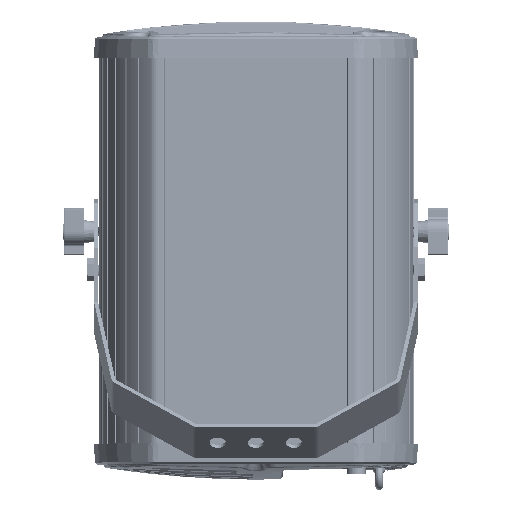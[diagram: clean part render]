
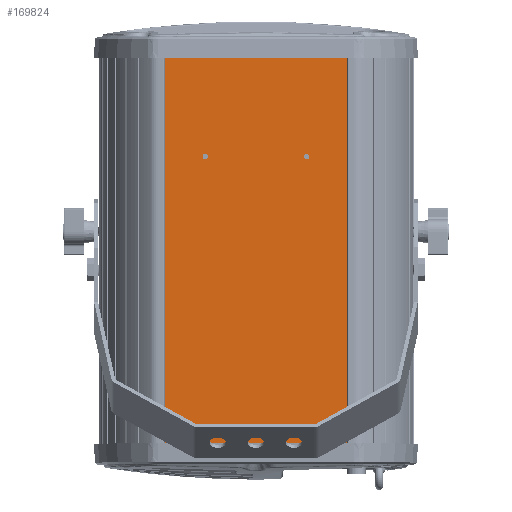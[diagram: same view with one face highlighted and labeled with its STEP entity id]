
A CAD part, top view. The second image highlights one B-rep face of the part: STEP entity #169824.
In plain terms, the highlighted planar face has unit normal (0, 0, 1).
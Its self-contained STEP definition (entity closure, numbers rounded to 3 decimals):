
#168538=DIRECTION('',(-1.,0.,0.));
#168539=VECTOR('',#168538,37.);
#168540=CARTESIAN_POINT('',(23.01,256.5,119.875));
#168541=LINE('',#168540,#168539);
#168555=DIRECTION('',(0.,-1.,0.));
#168556=VECTOR('',#168555,1.5);
#168557=CARTESIAN_POINT('',(23.01,258.,119.875));
#168558=LINE('',#168557,#168556);
#168563=DIRECTION('',(-1.,0.,0.));
#168564=VECTOR('',#168563,100.);
#168565=CARTESIAN_POINT('',(123.01,258.,119.875));
#168566=LINE('',#168565,#168564);
#168571=DIRECTION('',(0.,1.,0.));
#168572=VECTOR('',#168571,330.);
#168573=CARTESIAN_POINT('',(123.01,-72.,119.875));
#168574=LINE('',#168573,#168572);
#168579=DIRECTION('',(1.,0.,0.));
#168580=VECTOR('',#168579,20.);
#168581=CARTESIAN_POINT('',(103.01,-72.,119.875));
#168582=LINE('',#168581,#168580);
#168693=DIRECTION('',(1.,0.,0.));
#168694=VECTOR('',#168693,11.5);
#168695=CARTESIAN_POINT('',(43.01,-72.,119.875));
#168696=LINE('',#168695,#168694);
#168795=DIRECTION('',(0.,1.,0.));
#168796=VECTOR('',#168795,1.5);
#168797=CARTESIAN_POINT('',(-3.99,-72.,119.875));
#168798=LINE('',#168797,#168796);
#168811=DIRECTION('',(1.,0.,0.));
#168812=VECTOR('',#168811,20.);
#168813=CARTESIAN_POINT('',(-23.99,-72.,119.875));
#168814=LINE('',#168813,#168812);
#168819=DIRECTION('',(-1.,0.,0.));
#168820=VECTOR('',#168819,10.);
#168821=CARTESIAN_POINT('',(-13.99,258.,119.875));
#168822=LINE('',#168821,#168820);
#168848=DIRECTION('',(0.,-1.,0.));
#168849=VECTOR('',#168848,1.5);
#168850=CARTESIAN_POINT('',(54.51,-70.5,119.875));
#168851=LINE('',#168850,#168849);
#168852=DIRECTION('',(0.,1.,0.));
#168853=VECTOR('',#168852,1.5);
#168854=CARTESIAN_POINT('',(43.01,-72.,119.875));
#168855=LINE('',#168854,#168853);
#168856=DIRECTION('',(0.,1.,0.));
#168857=VECTOR('',#168856,330.);
#168858=CARTESIAN_POINT('',(-23.99,-72.,119.875));
#168859=LINE('',#168858,#168857);
#168860=DIRECTION('',(0.,-1.,0.));
#168861=VECTOR('',#168860,1.5);
#168862=CARTESIAN_POINT('',(-13.99,258.,119.875));
#168863=LINE('',#168862,#168861);
#168864=DIRECTION('',(0.,1.,0.));
#168865=VECTOR('',#168864,1.5);
#168866=CARTESIAN_POINT('',(103.01,-72.,119.875));
#168867=LINE('',#168866,#168865);
#168868=CARTESIAN_POINT('',(89.51,167.,119.875));
#168869=DIRECTION('',(0.,0.,1.));
#168870=DIRECTION('',(-1.,0.,0.));
#168871=AXIS2_PLACEMENT_3D('',#168868,#168869,#168870);
#168873=CARTESIAN_POINT('',(89.51,167.,119.875));
#168874=DIRECTION('',(0.,0.,1.));
#168875=DIRECTION('',(1.,0.,0.));
#168876=AXIS2_PLACEMENT_3D('',#168873,#168874,#168875);
#168878=CARTESIAN_POINT('',(9.51,167.,119.875));
#168879=DIRECTION('',(0.,0.,1.));
#168880=DIRECTION('',(-1.,0.,0.));
#168881=AXIS2_PLACEMENT_3D('',#168878,#168879,#168880);
#168883=CARTESIAN_POINT('',(9.51,167.,119.875));
#168884=DIRECTION('',(0.,0.,1.));
#168885=DIRECTION('',(1.,0.,0.));
#168886=AXIS2_PLACEMENT_3D('',#168883,#168884,#168885);
#168892=DIRECTION('',(1.,0.,0.));
#168893=VECTOR('',#168892,48.5);
#168894=CARTESIAN_POINT('',(54.51,-70.5,119.875));
#168895=LINE('',#168894,#168893);
#168900=DIRECTION('',(1.,0.,0.));
#168901=VECTOR('',#168900,47.);
#168902=CARTESIAN_POINT('',(-3.99,-70.5,119.875));
#168903=LINE('',#168902,#168901);
#168940=CARTESIAN_POINT('',(11.61,167.,119.875));
#168941=VERTEX_POINT('',#168940);
#168942=CARTESIAN_POINT('',(7.41,167.,119.875));
#168943=VERTEX_POINT('',#168942);
#169008=CARTESIAN_POINT('',(23.01,256.5,119.875));
#169009=VERTEX_POINT('',#169008);
#169010=CARTESIAN_POINT('',(-13.99,256.5,119.875));
#169011=VERTEX_POINT('',#169010);
#169012=CARTESIAN_POINT('',(23.01,258.,119.875));
#169013=VERTEX_POINT('',#169012);
#169014=CARTESIAN_POINT('',(123.01,258.,119.875));
#169015=VERTEX_POINT('',#169014);
#169016=CARTESIAN_POINT('',(123.01,-72.,119.875));
#169017=VERTEX_POINT('',#169016);
#169018=CARTESIAN_POINT('',(103.01,-72.,119.875));
#169019=VERTEX_POINT('',#169018);
#169020=CARTESIAN_POINT('',(103.01,-70.5,119.875));
#169021=VERTEX_POINT('',#169020);
#169050=CARTESIAN_POINT('',(54.51,-70.5,119.875));
#169051=VERTEX_POINT('',#169050);
#169052=CARTESIAN_POINT('',(54.51,-72.,119.875));
#169053=VERTEX_POINT('',#169052);
#169054=CARTESIAN_POINT('',(43.01,-72.,119.875));
#169055=VERTEX_POINT('',#169054);
#169056=CARTESIAN_POINT('',(43.01,-70.5,119.875));
#169057=VERTEX_POINT('',#169056);
#169086=CARTESIAN_POINT('',(-3.99,-70.5,119.875));
#169087=VERTEX_POINT('',#169086);
#169088=CARTESIAN_POINT('',(-3.99,-72.,119.875));
#169089=VERTEX_POINT('',#169088);
#169090=CARTESIAN_POINT('',(-23.99,-72.,119.875));
#169091=VERTEX_POINT('',#169090);
#169092=CARTESIAN_POINT('',(-23.99,258.,119.875));
#169093=VERTEX_POINT('',#169092);
#169094=CARTESIAN_POINT('',(-13.99,258.,119.875));
#169095=VERTEX_POINT('',#169094);
#169096=CARTESIAN_POINT('',(87.41,167.,119.875));
#169097=CARTESIAN_POINT('',(91.61,167.,119.875));
#169098=VERTEX_POINT('',#169096);
#169099=VERTEX_POINT('',#169097);
#169788=CARTESIAN_POINT('',(49.51,93.,119.875));
#169789=DIRECTION('',(0.,0.,1.));
#169790=DIRECTION('',(0.,1.,0.));
#169791=AXIS2_PLACEMENT_3D('',#169788,#169789,#169790);
#169792=PLANE('',#169791);
#169794=ORIENTED_EDGE('',*,*,#169793,.F.);
#169795=ORIENTED_EDGE('',*,*,#169492,.T.);
#169796=ORIENTED_EDGE('',*,*,#169507,.F.);
#169797=ORIENTED_EDGE('',*,*,#169520,.T.);
#169799=ORIENTED_EDGE('',*,*,#169798,.F.);
#169800=ORIENTED_EDGE('',*,*,#169676,.F.);
#169801=ORIENTED_EDGE('',*,*,#169691,.F.);
#169802=ORIENTED_EDGE('',*,*,#169704,.T.);
#169803=ORIENTED_EDGE('',*,*,#169717,.F.);
#169804=ORIENTED_EDGE('',*,*,#169732,.T.);
#169805=ORIENTED_EDGE('',*,*,#169253,.F.);
#169806=ORIENTED_EDGE('',*,*,#169280,.F.);
#169807=ORIENTED_EDGE('',*,*,#169295,.F.);
#169808=ORIENTED_EDGE('',*,*,#169308,.F.);
#169809=ORIENTED_EDGE('',*,*,#169321,.F.);
#169810=ORIENTED_EDGE('',*,*,#169336,.T.);
#169811=EDGE_LOOP('',(#169794,#169795,#169796,#169797,#169799,#169800,#169801,
#169802,#169803,#169804,#169805,#169806,#169807,#169808,#169809,#169810));
#169812=FACE_OUTER_BOUND('',#169811,.F.);
#169814=ORIENTED_EDGE('',*,*,#169813,.T.);
#169816=ORIENTED_EDGE('',*,*,#169815,.T.);
#169817=EDGE_LOOP('',(#169814,#169816));
#169818=FACE_BOUND('',#169817,.F.);
#169819=ORIENTED_EDGE('',*,*,#169109,.T.);
#169821=ORIENTED_EDGE('',*,*,#169820,.T.);
#169822=EDGE_LOOP('',(#169819,#169821));
#169823=FACE_BOUND('',#169822,.F.);
#169824=ADVANCED_FACE('',(#169812,#169818,#169823),#169792,.T.);
#168872=CIRCLE('',#168871,2.1);
#168877=CIRCLE('',#168876,2.1);
#168882=CIRCLE('',#168881,2.1);
#168887=CIRCLE('',#168886,2.1);
#169109=EDGE_CURVE('',#168943,#168941,#168882,.T.);
#169253=EDGE_CURVE('',#169009,#169011,#168541,.T.);
#169280=EDGE_CURVE('',#169013,#169009,#168558,.T.);
#169295=EDGE_CURVE('',#169015,#169013,#168566,.T.);
#169308=EDGE_CURVE('',#169017,#169015,#168574,.T.);
#169321=EDGE_CURVE('',#169019,#169017,#168582,.T.);
#169336=EDGE_CURVE('',#169019,#169021,#168867,.T.);
#169492=EDGE_CURVE('',#169051,#169053,#168851,.T.);
#169507=EDGE_CURVE('',#169055,#169053,#168696,.T.);
#169520=EDGE_CURVE('',#169055,#169057,#168855,.T.);
#169676=EDGE_CURVE('',#169089,#169087,#168798,.T.);
#169691=EDGE_CURVE('',#169091,#169089,#168814,.T.);
#169704=EDGE_CURVE('',#169091,#169093,#168859,.T.);
#169717=EDGE_CURVE('',#169095,#169093,#168822,.T.);
#169732=EDGE_CURVE('',#169095,#169011,#168863,.T.);
#169793=EDGE_CURVE('',#169051,#169021,#168895,.T.);
#169798=EDGE_CURVE('',#169087,#169057,#168903,.T.);
#169813=EDGE_CURVE('',#169098,#169099,#168872,.T.);
#169815=EDGE_CURVE('',#169099,#169098,#168877,.T.);
#169820=EDGE_CURVE('',#168941,#168943,#168887,.T.);
